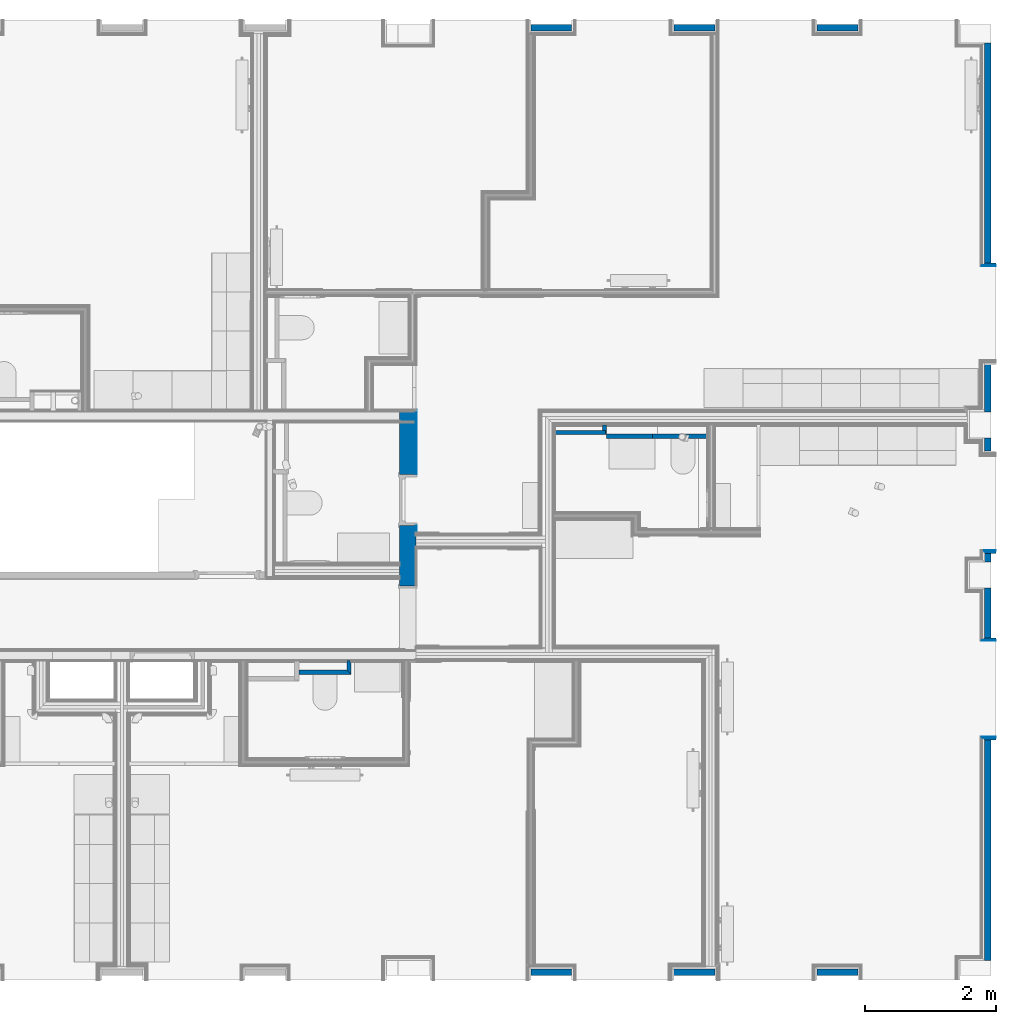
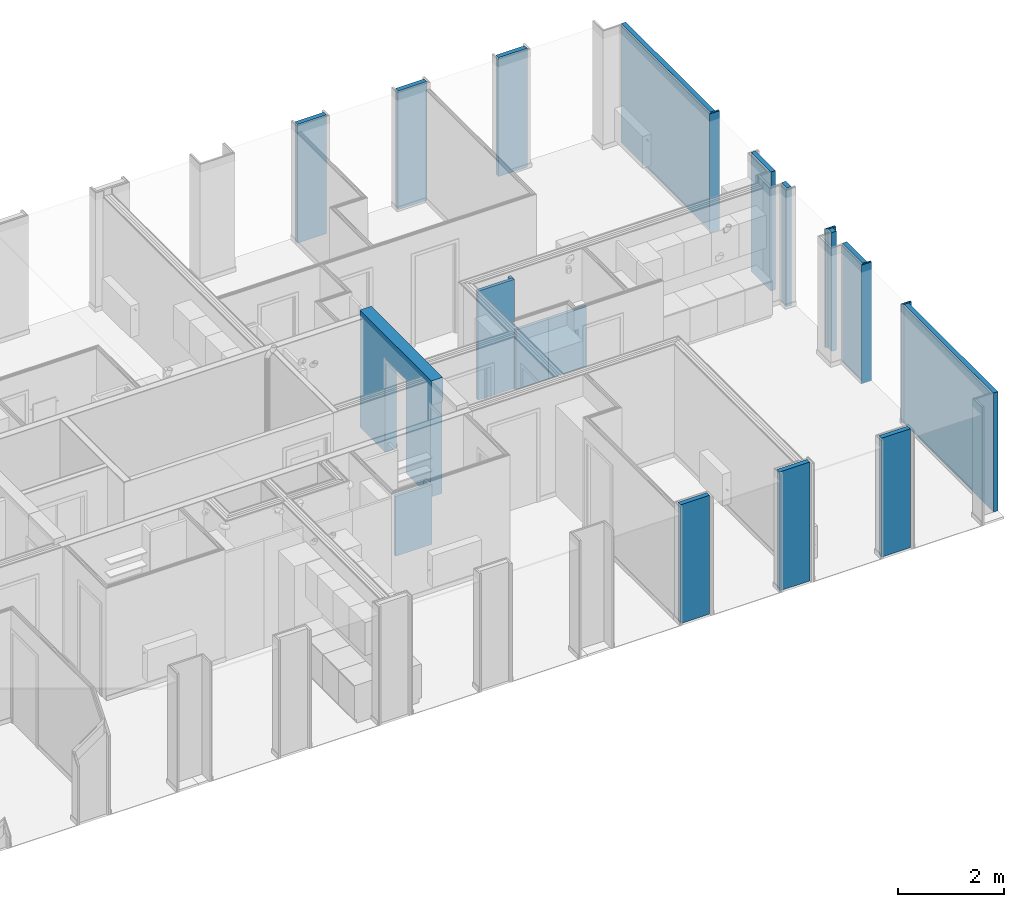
# One storey, part 5 of 82: 28 walls, 3 openings.
"""IFC2X3 building model written with IfcOpenShell, lengths in metres."""

from ifc_helpers import new_model, entity, si_unit, converted_unit, derived_unit, money_unit, direction, frame, frame_2d, origin_with_axes, place, context, subcontext, project, spatial, polyline, rectangle, outline, extrude, material, layer, layer_set, layer_usage, type_object, element, save


model = new_model("IFC2X3")

# Units and contexts
model_context = context("Model", 3, precision=1e-05, world=origin_with_axes(), true_north=direction((0.0, 1.0)))
body_context = subcontext(model_context, "Body", "Model", "MODEL_VIEW", scale=1.0)
ifc_project = project(units=[si_unit("LENGTHUNIT", "METRE"), si_unit("AREAUNIT", "SQUARE_METRE"), si_unit("VOLUMEUNIT", "CUBIC_METRE"), si_unit("ABSORBEDDOSEUNIT", "GRAY"), si_unit("AMOUNTOFSUBSTANCEUNIT", "MOLE"), si_unit("DOSEEQUIVALENTUNIT", "SIEVERT"), si_unit("ELECTRICCAPACITANCEUNIT", "FARAD"), si_unit("ELECTRICCHARGEUNIT", "COULOMB"), si_unit("ELECTRICCONDUCTANCEUNIT", "SIEMENS"), si_unit("ELECTRICCURRENTUNIT", "AMPERE"), si_unit("ELECTRICRESISTANCEUNIT", "OHM"), si_unit("ELECTRICVOLTAGEUNIT", "VOLT"), si_unit("ENERGYUNIT", "JOULE"), si_unit("FORCEUNIT", "NEWTON"), si_unit("FREQUENCYUNIT", "HERTZ"), si_unit("ILLUMINANCEUNIT", "LUX"), si_unit("INDUCTANCEUNIT", "HENRY"), si_unit("LUMINOUSFLUXUNIT", "LUMEN"), si_unit("LUMINOUSINTENSITYUNIT", "CANDELA"), si_unit("MAGNETICFLUXDENSITYUNIT", "TESLA"), si_unit("MAGNETICFLUXUNIT", "WEBER"), si_unit("MASSUNIT", "GRAM"), converted_unit("PLANEANGLEUNIT", "degree", entity("IfcReal", 0.0174532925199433), si_unit("PLANEANGLEUNIT", "RADIAN"), dimensions=[0, 0, 0, 0, 0, 0, 0]), si_unit("POWERUNIT", "WATT"), si_unit("PRESSUREUNIT", "PASCAL"), si_unit("RADIOACTIVITYUNIT", "BECQUEREL"), si_unit("SOLIDANGLEUNIT", "STERADIAN"), si_unit("THERMODYNAMICTEMPERATUREUNIT", "KELVIN"), si_unit("TIMEUNIT", "SECOND"), derived_unit("ACCELERATIONUNIT", [(si_unit("LENGTHUNIT", "METRE"), 1), (si_unit("TIMEUNIT", "SECOND"), -2)]), derived_unit("ANGULARVELOCITYUNIT", [(converted_unit("PLANEANGLEUNIT", "degree", entity("IfcReal", 0.0174532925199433), si_unit("PLANEANGLEUNIT", "RADIAN"), dimensions=[0, 0, 0, 0, 0, 0, 0]), 1), (si_unit("TIMEUNIT", "SECOND"), -1)]), derived_unit("CURVATUREUNIT", [(converted_unit("PLANEANGLEUNIT", "degree", entity("IfcReal", 0.0174532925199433), si_unit("PLANEANGLEUNIT", "RADIAN"), dimensions=[0, 0, 0, 0, 0, 0, 0]), 1), (si_unit("LENGTHUNIT", "METRE"), -1)]), derived_unit("DYNAMICVISCOSITYUNIT", [(si_unit("PRESSUREUNIT", "PASCAL"), 1), (si_unit("TIMEUNIT", "SECOND"), 1)]), derived_unit("HEATFLUXDENSITYUNIT", [(si_unit("POWERUNIT", "WATT"), 1), (si_unit("LENGTHUNIT", "METRE"), -2)]), derived_unit("HEATINGVALUEUNIT", [(si_unit("ENERGYUNIT", "JOULE"), 1), (si_unit("MASSUNIT", "GRAM"), -1)]), derived_unit("INTEGERCOUNTRATEUNIT", [(si_unit("TIMEUNIT", "SECOND"), -1)]), derived_unit("IONCONCENTRATIONUNIT", [(si_unit("MASSUNIT", "GRAM"), 1), (si_unit("VOLUMEUNIT", "CUBIC_METRE"), -1)]), derived_unit("ISOTHERMALMOISTURECAPACITYUNIT", [(si_unit("VOLUMEUNIT", "CUBIC_METRE"), 1), (si_unit("MASSUNIT", "GRAM"), -1)]), derived_unit("KINEMATICVISCOSITYUNIT", [(si_unit("AREAUNIT", "SQUARE_METRE"), 1), (si_unit("TIMEUNIT", "SECOND"), -1)]), derived_unit("LINEARFORCEUNIT", [(si_unit("FORCEUNIT", "NEWTON"), 1), (si_unit("LENGTHUNIT", "METRE"), -1)]), derived_unit("LINEARMOMENTUNIT", [(si_unit("FORCEUNIT", "NEWTON"), 1), (si_unit("LENGTHUNIT", "METRE"), -1)]), derived_unit("LINEARSTIFFNESSUNIT", [(si_unit("FORCEUNIT", "NEWTON"), 1), (si_unit("LENGTHUNIT", "METRE"), -1)]), derived_unit("LINEARVELOCITYUNIT", [(si_unit("LENGTHUNIT", "METRE"), 1), (si_unit("TIMEUNIT", "SECOND"), -1)]), derived_unit("LUMINOUSINTENSITYDISTRIBUTIONUNIT", [(si_unit("LUMINOUSINTENSITYUNIT", "CANDELA"), 1), (si_unit("LUMINOUSFLUXUNIT", "LUMEN"), -1)]), derived_unit("MASSDENSITYUNIT", [(si_unit("MASSUNIT", "GRAM"), 1), (si_unit("VOLUMEUNIT", "CUBIC_METRE"), -1)]), derived_unit("MASSFLOWRATEUNIT", [(si_unit("MASSUNIT", "GRAM"), 1), (si_unit("TIMEUNIT", "SECOND"), -1)]), derived_unit("MASSPERLENGTHUNIT", [(si_unit("MASSUNIT", "GRAM"), 1), (si_unit("LENGTHUNIT", "METRE"), -1)]), derived_unit("MODULUSOFELASTICITYUNIT", [(si_unit("FORCEUNIT", "NEWTON"), 1), (si_unit("AREAUNIT", "SQUARE_METRE"), -1)]), derived_unit("MODULUSOFLINEARSUBGRADEREACTIONUNIT", [(si_unit("FORCEUNIT", "NEWTON"), 1), (si_unit("LENGTHUNIT", "METRE"), -2)]), derived_unit("MODULUSOFROTATIONALSUBGRADEREACTIONUNIT", [(si_unit("FORCEUNIT", "NEWTON"), 1), (si_unit("LENGTHUNIT", "METRE"), 1)]), derived_unit("MODULUSOFSUBGRADEREACTIONUNIT", [(si_unit("FORCEUNIT", "NEWTON"), 1), (si_unit("VOLUMEUNIT", "CUBIC_METRE"), -1)]), derived_unit("MOISTUREDIFFUSIVITYUNIT", [(si_unit("VOLUMEUNIT", "CUBIC_METRE"), 1), (si_unit("TIMEUNIT", "SECOND"), -1)]), derived_unit("MOLECULARWEIGHTUNIT", [(si_unit("MASSUNIT", "GRAM"), 1), (si_unit("AMOUNTOFSUBSTANCEUNIT", "MOLE"), -1)]), derived_unit("PLANARFORCEUNIT", [(si_unit("FORCEUNIT", "NEWTON"), 1), (si_unit("LENGTHUNIT", "METRE"), -2)]), derived_unit("ROTATIONALFREQUENCYUNIT", [(si_unit("TIMEUNIT", "SECOND"), -1)]), derived_unit("ROTATIONALMASSUNIT", [(si_unit("MASSUNIT", "GRAM"), 1), (si_unit("LENGTHUNIT", "METRE"), 2)]), derived_unit("ROTATIONALSTIFFNESSUNIT", [(si_unit("FORCEUNIT", "NEWTON"), 1), (si_unit("LENGTHUNIT", "METRE"), 1), (converted_unit("PLANEANGLEUNIT", "degree", entity("IfcReal", 0.0174532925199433), si_unit("PLANEANGLEUNIT", "RADIAN"), dimensions=[0, 0, 0, 0, 0, 0, 0]), -1)]), derived_unit("SECTIONAREAINTEGRALUNIT", [(si_unit("LENGTHUNIT", "METRE"), 5)]), derived_unit("SECTIONMODULUSUNIT", [(si_unit("LENGTHUNIT", "METRE"), 3)]), derived_unit("SHEARMODULUSUNIT", [(si_unit("FORCEUNIT", "NEWTON"), 1), (si_unit("AREAUNIT", "SQUARE_METRE"), -1)]), derived_unit("SOUNDPOWERUNIT", [(si_unit("ENERGYUNIT", "JOULE"), 1), (si_unit("TIMEUNIT", "SECOND"), -1)]), derived_unit("SPECIFICHEATCAPACITYUNIT", [(si_unit("FORCEUNIT", "NEWTON"), 1), (si_unit("MASSUNIT", "GRAM"), -1), (si_unit("THERMODYNAMICTEMPERATUREUNIT", "KELVIN"), -1)]), derived_unit("TEMPERATUREGRADIENTUNIT", [(si_unit("THERMODYNAMICTEMPERATUREUNIT", "KELVIN"), 1), (si_unit("LENGTHUNIT", "METRE"), -1)]), derived_unit("THERMALADMITTANCEUNIT", [(si_unit("POWERUNIT", "WATT"), 1), (si_unit("AREAUNIT", "SQUARE_METRE"), -1), (si_unit("THERMODYNAMICTEMPERATUREUNIT", "KELVIN"), -1)]), derived_unit("THERMALCONDUCTANCEUNIT", [(si_unit("POWERUNIT", "WATT"), 1), (si_unit("LENGTHUNIT", "METRE"), -1), (si_unit("THERMODYNAMICTEMPERATUREUNIT", "KELVIN"), -1)]), derived_unit("THERMALEXPANSIONCOEFFICIENTUNIT", [(si_unit("THERMODYNAMICTEMPERATUREUNIT", "KELVIN"), -1)]), derived_unit("THERMALRESISTANCEUNIT", [(si_unit("AREAUNIT", "SQUARE_METRE"), 1), (si_unit("POWERUNIT", "WATT"), -1)]), derived_unit("THERMALTRANSMITTANCEUNIT", [(si_unit("POWERUNIT", "WATT"), 1), (si_unit("AREAUNIT", "SQUARE_METRE"), -1), (si_unit("THERMODYNAMICTEMPERATUREUNIT", "KELVIN"), -1)]), derived_unit("TORQUEUNIT", [(si_unit("FORCEUNIT", "NEWTON"), 1), (si_unit("LENGTHUNIT", "METRE"), 1)]), derived_unit("VAPORPERMEABILITYUNIT", [(si_unit("MASSUNIT", "GRAM"), 1), (si_unit("TIMEUNIT", "SECOND"), -1)]), derived_unit("VOLUMETRICFLOWRATEUNIT", [(si_unit("VOLUMEUNIT", "CUBIC_METRE"), 1), (si_unit("TIMEUNIT", "SECOND"), -1)]), derived_unit("WARPINGCONSTANTUNIT", [(si_unit("LENGTHUNIT", "METRE"), 6)]), derived_unit("WARPINGMOMENTUNIT", [(si_unit("FORCEUNIT", "NEWTON"), 1), (si_unit("LENGTHUNIT", "METRE"), 2)]), money_unit("GBP")], contexts=[model_context])

# Site, building, storey
site_placement = place(None, origin_with_axes())
site = spatial("IfcSite", under=ifc_project, at=site_placement, Name="Site", CompositionType="ELEMENT")
building_placement = place(site_placement, origin_with_axes())
building = spatial("IfcBuilding", under=site, at=building_placement, Name="Building01", CompositionType="ELEMENT")
storey_placement = place(building_placement, frame((0.0, 0.0, 12.13), z_axis=(0.0, 0.0, 1.0), x_axis=(1.0, 0.0, 0.0)))
storey = spatial("IfcBuildingStorey", under=building, at=storey_placement, Name="3F", CompositionType="ELEMENT", Elevation=12.13)

# Walls
ifc_material_1 = material(Name="A_BSUK_WallsExternal_Block")
ifc_layer_1 = layer(ifc_material_1, 0.1, ventilated=False)
ifc_layer_set_1 = layer_set([ifc_layer_1])
ifc_layer_usage_1 = layer_usage(ifc_layer_set_1, "AXIS2", "POSITIVE", 0.0)
wall_type_1 = type_object("IfcWallType", Name="A-Walls-ExternalBlock", PredefinedType="NOTDEFINED")
wall_1_placement = place(storey_placement, frame((20.387, 0.27, 0.0), z_axis=(0.0, 0.0, 1.0), x_axis=(-1.0, 0.0, 0.0)))
element("IfcWallStandardCase", 1, at=wall_1_placement, inside=storey, type_object=wall_type_1, material=ifc_layer_usage_1, Name="A-Walls-ExternalBlock", ObjectType="A-Walls-ExternalBlock", context=body_context, shape_type="SweptSolid", body=[
    extrude(rectangle(XDim=0.624, YDim=0.1, at=frame_2d((0.312, 0.05), x_axis=(-1.0, 0.0))), origin_with_axes(), (0.0, 0.0, 1.0), 2.74),
])
wall_2_placement = place(storey_placement, frame((22.577, 0.27, 0.0), z_axis=(0.0, 0.0, 1.0), x_axis=(-1.0, 0.0, 0.0)))
element("IfcWallStandardCase", 2, at=wall_2_placement, inside=storey, type_object=wall_type_1, material=ifc_layer_usage_1, Name="A-Walls-ExternalBlock", ObjectType="A-Walls-ExternalBlock", context=body_context, shape_type="SweptSolid", body=[
    extrude(rectangle(XDim=0.66, YDim=0.1, at=frame_2d((0.33, 0.05), x_axis=(-1.0, 0.0))), origin_with_axes(), (0.0, 0.0, 1.0), 2.74),
])
wall_3_placement = place(storey_placement, frame((24.767, 0.27, 0.0), z_axis=(0.0, 0.0, 1.0), x_axis=(-1.0, 0.0, 0.0)))
element("IfcWallStandardCase", 3, at=wall_3_placement, inside=storey, type_object=wall_type_1, material=ifc_layer_usage_1, Name="A-Walls-ExternalBlock", ObjectType="A-Walls-ExternalBlock", context=body_context, shape_type="SweptSolid", body=[
    extrude(rectangle(XDim=0.624, YDim=0.1, at=frame_2d((0.312, 0.05), x_axis=(-1.0, 0.0))), origin_with_axes(), (0.0, 0.0, 1.0), 2.74),
])
for number, where, z_axis, x_axis, name in (
    (4, (19.763, 14.63, 0.0), (0.0, 0.0, 1.0), (1.0, 0.0, 0.0), "A-Walls-ExternalBlock"),
    (5, (21.953, 14.63, 0.0), (0.0, 0.0, 1.0), (1.0, 0.0, 0.0), "A-Walls-ExternalBlock"),
    (6, (24.143, 14.63, 0.0), (0.0, 0.0, 1.0), (1.0, 0.0, 0.0), "A-Walls-ExternalBlock"),
):
    element("IfcWallStandardCase", number, at=place(storey_placement, frame(where, z_axis=z_axis, x_axis=x_axis)), inside=storey, type_object=wall_type_1, material=ifc_layer_usage_1, Name=name, ObjectType="A-Walls-ExternalBlock", context=body_context, shape_type="SweptSolid", body=[
        extrude(rectangle(XDim=0.624, YDim=0.1, at=frame_2d((0.312, 0.05), x_axis=(1.0, 0.0))), origin_with_axes(), (0.0, 0.0, 1.0), 2.74),
    ])
wall_4_placement = place(storey_placement, frame((26.71, 3.77418, 0.0), z_axis=(0.0, 0.0, 1.0), x_axis=(0.0, -1.0, 0.0)))
element("IfcWallStandardCase", 7, at=wall_4_placement, inside=storey, type_object=wall_type_1, material=ifc_layer_usage_1, Name="A-Walls-ExternalBlock", ObjectType="A-Walls-ExternalBlock", context=body_context, shape_type="SweptSolid", body=[
    extrude(rectangle(XDim=3.37418, YDim=0.1, at=frame_2d((1.68709, 0.05), x_axis=(1.0, 0.0))), origin_with_axes(), (0.0, 0.0, 1.0), 2.74),
])
wall_5_placement = place(storey_placement, frame((26.71, 6.634326, 0.0), z_axis=(0.0, 0.0, 1.0), x_axis=(0.0, -1.0, 0.0)))
element("IfcWallStandardCase", 8, at=wall_5_placement, inside=storey, type_object=wall_type_1, material=ifc_layer_usage_1, Name="A-Walls-ExternalBlock", ObjectType="A-Walls-ExternalBlock", context=body_context, shape_type="SweptSolid", body=[
    extrude(rectangle(XDim=0.134326, YDim=0.1, at=frame_2d((0.067163, 0.05), x_axis=(1.0, 0.0))), origin_with_axes(), (0.0, 0.0, 1.0), 2.74),
])
wall_6_placement = place(storey_placement, frame((26.71, 9.55018, 0.0), z_axis=(0.0, 0.0, 1.0), x_axis=(0.0, -1.0, 0.0)))
element("IfcWallStandardCase", 9, at=wall_6_placement, inside=storey, type_object=wall_type_1, material=ifc_layer_usage_1, Name="A-Walls-ExternalBlock", ObjectType="A-Walls-ExternalBlock", context=body_context, shape_type="SweptSolid", body=[
    extrude(rectangle(XDim=0.1, YDim=0.75018, at=frame_2d((0.37509, 0.05), x_axis=(0.0, -1.0))), origin_with_axes(), (0.0, 0.0, 1.0), 2.74),
])
wall_7_placement = place(storey_placement, frame((26.71, 8.4, 0.0), z_axis=(0.0, 0.0, 1.0), x_axis=(0.0, -1.0, 0.0)))
element("IfcWallStandardCase", 10, at=wall_7_placement, inside=storey, type_object=wall_type_1, material=ifc_layer_usage_1, Name="A-Walls-ExternalBlock", ObjectType="A-Walls-ExternalBlock", context=body_context, shape_type="SweptSolid", body=[
    extrude(rectangle(XDim=0.199674, YDim=0.1, at=frame_2d((0.099837, 0.05), x_axis=(-1.0, 0.0))), origin_with_axes(), (0.0, 0.0, 1.0), 2.74),
])
wall_8_placement = place(storey_placement, frame((26.71, 14.45, 0.0), z_axis=(0.0, 0.0, 1.0), x_axis=(0.0, -1.0, 0.0)))
element("IfcWallStandardCase", 11, at=wall_8_placement, inside=storey, type_object=wall_type_1, material=ifc_layer_usage_1, Name="A-Walls-ExternalBlock", ObjectType="A-Walls-ExternalBlock", context=body_context, shape_type="SweptSolid", body=[
    extrude(rectangle(XDim=3.36982, YDim=0.1, at=frame_2d((1.68491, 0.05), x_axis=(1.0, 0.0))), origin_with_axes(), (0.0, 0.0, 1.0), 2.74),
])
wall_9_placement = place(storey_placement, frame((26.71, 6.1, 0.0), z_axis=(0.0, 0.0, 1.0), x_axis=(0.0, -1.0, 0.0)))
element("IfcWallStandardCase", 12, at=wall_9_placement, inside=storey, type_object=wall_type_1, material=ifc_layer_usage_1, Name="A-Walls-ExternalBlock", ObjectType="A-Walls-ExternalBlock", context=body_context, shape_type="SweptSolid", body=[
    extrude(rectangle(XDim=0.75982, YDim=0.1, at=frame_2d((0.37991, 0.05), x_axis=(1.0, 0.0))), origin_with_axes(), (0.0, 0.0, 1.0), 2.74),
])
ifc_material_2 = material(Name="A_BSUK_Walls_Timber")
ifc_layer_2 = layer(ifc_material_2, 0.015, ventilated=False)
ifc_material_3 = material(Name="A_BSUK_OpeningsClearance")
ifc_layer_3 = layer(ifc_material_3, 0.05, ventilated=False)
ifc_layer_set_2 = layer_set([ifc_layer_2, ifc_layer_3])
ifc_layer_usage_2 = layer_usage(ifc_layer_set_2, "AXIS2", "POSITIVE", 0.0)
wall_type_2 = type_object("IfcWallType", Name="SHE_A-Walls_Type05c_PreWallShell_65mm", PredefinedType="NOTDEFINED")
wall_10_placement = place(storey_placement, frame((16.9425, 4.845, 0.0), z_axis=(0.0, 0.0, 1.0), x_axis=(0.0, 1.0, 0.0)))
element("IfcWallStandardCase", 13, at=wall_10_placement, inside=storey, type_object=wall_type_2, material=ifc_layer_usage_2, Name="5C", ObjectType="SHE_A-Walls_Type05c_PreWallShell_65mm", context=body_context, shape_type="SweptSolid", body=[
    extrude(outline(polyline([(0.12, -0.05), (0.15, -0.05), (0.15, 0.0), (0.0, 0.0), (-0.065, -0.065), (0.12, -0.065), (0.12, -0.05)])), origin_with_axes(), (0.0, 0.0, 1.0), 1.375),
])
wall_11_placement = place(storey_placement, frame((16.2075, 4.845, 0.0), z_axis=(0.0, 0.0, 1.0), x_axis=(1.0, 0.0, 0.0)))
element("IfcWallStandardCase", 14, at=wall_11_placement, inside=storey, type_object=wall_type_2, material=ifc_layer_usage_2, Name="5C", ObjectType="SHE_A-Walls_Type05c_PreWallShell_65mm", context=body_context, shape_type="SweptSolid", body=[
    extrude(outline(polyline([(0.735, 0.0), (0.0, 0.0), (0.0, -0.065), (0.8, -0.065), (0.735, 0.0)])), origin_with_axes(), (0.0, 0.0, 1.0), 1.375),
])
ifc_layer_set_3 = layer_set([ifc_layer_3, ifc_layer_2])
ifc_layer_usage_3 = layer_usage(ifc_layer_set_3, "AXIS2", "POSITIVE", 0.0)
wall_12_placement = place(storey_placement, frame((20.907661, 8.515, 0.0), z_axis=(0.0, 0.0, 1.0), x_axis=(-1.0, 0.0, 0.0)))
element("IfcWallStandardCase", 15, at=wall_12_placement, inside=storey, type_object=wall_type_2, material=ifc_layer_usage_3, Name="5C", ObjectType="SHE_A-Walls_Type05c_PreWallShell_65mm", context=body_context, shape_type="SweptSolid", body=[
    extrude(outline(polyline([(0.785, 0.065), (-0.015, 0.065), (-0.015, 0.05), (0.0, 0.05), (0.0, 0.0), (0.785, 0.0), (0.785, 0.065)])), origin_with_axes(), (0.0, 0.0, 1.0), 2.51),
])
wall_13_placement = place(storey_placement, frame((20.857661, 8.595, 0.0), z_axis=(0.0, 0.0, 1.0), x_axis=(0.0, -1.0, 0.0)))
element("IfcWallStandardCase", 16, at=wall_13_placement, inside=storey, type_object=wall_type_2, material=ifc_layer_usage_3, Name="5C", ObjectType="SHE_A-Walls_Type05c_PreWallShell_65mm", context=body_context, shape_type="SweptSolid", body=[
    extrude(outline(polyline([(0.08, 0.05), (0.13, 0.05), (0.13, 0.065), (0.0, 0.065), (0.0, 0.0), (0.08, 0.0), (0.08, 0.05)])), origin_with_axes(), (0.0, 0.0, 1.0), 2.51),
])
wall_14_placement = place(storey_placement, frame((21.626659, 8.460003, 0.0), z_axis=(0.0, 0.0, 1.0), x_axis=(-1.0, 0.0, 0.0)))
element("IfcWallStandardCase", 17, at=wall_14_placement, inside=storey, type_object=wall_type_2, material=ifc_layer_usage_3, Name="5C", ObjectType="SHE_A-Walls_Type05c_PreWallShell_65mm", context=body_context, shape_type="SweptSolid", body=[
    extrude(rectangle(XDim=0.703998, YDim=0.065, at=frame_2d((0.351999, 0.0325), x_axis=(-1.0, 0.0))), origin_with_axes(), (0.0, 0.0, 1.0), 1.375),
])
wall_15_placement = place(storey_placement, frame((22.461661, 8.46, 0.0), z_axis=(0.0, 0.0, 1.0), x_axis=(-1.0, 0.0, 0.0)))
element("IfcWallStandardCase", 18, at=wall_15_placement, inside=storey, type_object=wall_type_2, material=ifc_layer_usage_3, Name="5C", ObjectType="SHE_A-Walls_Type05c_PreWallShell_65mm", context=body_context, shape_type="SweptSolid", body=[
    extrude(rectangle(XDim=0.835002, YDim=0.065, at=frame_2d((0.417501, 0.0325), x_axis=(1.0, 0.0))), origin_with_axes(), (0.0, 0.0, 1.0), 1.375),
])
ifc_material_4 = material(Name="A_BSUK_WallInternal_Finishes_Plasterboard")
ifc_layer_4 = layer(ifc_material_4, 0.013, ventilated=False)
ifc_layer_set_4 = layer_set([ifc_layer_4])
ifc_layer_usage_4 = layer_usage(ifc_layer_set_4, "AXIS2", "POSITIVE", 0.0)
wall_type_3 = type_object("IfcWallType", Name="default", PredefinedType="NOTDEFINED")
wall_16_placement = place(storey_placement, frame((26.675, 3.80918, 0.0), z_axis=(0.0, 0.0, 1.0), x_axis=(1.0, 0.0, 0.0)))
element("IfcWallStandardCase", 19, at=wall_16_placement, inside=storey, type_object=wall_type_3, material=ifc_layer_usage_4, Name="default", ObjectType="default", context=body_context, shape_type="SweptSolid", body=[
    extrude(outline(polyline([(-0.013, 0.013), (0.0, 0.0), (0.205, 0.0), (0.205, 0.013), (-0.013, 0.013)])), origin_with_axes(), (0.0, 0.0, 1.0), 2.74),
])
ifc_material_5 = material(Name="A_BSUK_Insulation")
ifc_layer_5 = layer(ifc_material_5, 0.036, ventilated=False)
ifc_layer_set_5 = layer_set([ifc_layer_5])
ifc_layer_usage_5 = layer_usage(ifc_layer_set_5, "AXIS2", "POSITIVE", 0.0)
wall_17_placement = place(storey_placement, frame((26.71, 3.77418, 0.0), z_axis=(0.0, 0.0, 1.0), x_axis=(1.0, 0.0, 0.0)))
element("IfcWallStandardCase", 20, at=wall_17_placement, inside=storey, type_object=wall_type_3, material=ifc_layer_usage_5, Name="default", ObjectType="default", context=body_context, shape_type="SweptSolid", body=[
    extrude(outline(polyline([(-0.036, 0.036), (0.0, 0.0), (0.17, 0.0), (0.17, 0.036), (-0.036, 0.036)])), origin_with_axes(), (0.0, 0.0, 1.0), 2.74),
])
wall_18_placement = place(storey_placement, frame((26.88, 5.30518, 0.0), z_axis=(0.0, 0.0, 1.0), x_axis=(-1.0, 0.0, 0.0)))
element("IfcWallStandardCase", 21, at=wall_18_placement, inside=storey, type_object=wall_type_3, material=ifc_layer_usage_4, Name="default", ObjectType="default", context=body_context, shape_type="SweptSolid", body=[
    extrude(outline(polyline([(0.218, 0.013), (0.0, 0.013), (0.0, 0.0), (0.205, 0.0), (0.218, 0.013)])), origin_with_axes(), (0.0, 0.0, 1.0), 2.74),
])
wall_19_placement = place(storey_placement, frame((26.88, 5.34018, 0.0), z_axis=(0.0, 0.0, 1.0), x_axis=(-1.0, 0.0, 0.0)))
element("IfcWallStandardCase", 22, at=wall_19_placement, inside=storey, type_object=wall_type_3, material=ifc_layer_usage_5, Name="default", ObjectType="default", context=body_context, shape_type="SweptSolid", body=[
    extrude(outline(polyline([(0.206, 0.036), (0.0, 0.036), (0.0, 0.0), (0.17, 0.0), (0.206, 0.036)])), origin_with_axes(), (0.0, 0.0, 1.0), 2.74),
])
wall_20_placement = place(storey_placement, frame((26.675, 6.669326, 0.0), z_axis=(0.0, 0.0, 1.0), x_axis=(1.0, 0.0, 0.0)))
element("IfcWallStandardCase", 23, at=wall_20_placement, inside=storey, type_object=wall_type_3, material=ifc_layer_usage_4, Name="default", ObjectType="default", context=body_context, shape_type="SweptSolid", body=[
    extrude(outline(polyline([(-0.013, 0.013), (0.0, 0.0), (0.205, 0.0), (0.205, 0.013), (-0.013, 0.013)])), origin_with_axes(), (0.0, 0.0, 1.0), 2.74),
])
wall_21_placement = place(storey_placement, frame((26.71, 6.634326, 0.0), z_axis=(0.0, 0.0, 1.0), x_axis=(1.0, 0.0, 0.0)))
element("IfcWallStandardCase", 24, at=wall_21_placement, inside=storey, type_object=wall_type_3, material=ifc_layer_usage_5, Name="default", ObjectType="default", context=body_context, shape_type="SweptSolid", body=[
    extrude(outline(polyline([(-0.036, 0.036), (0.0, 0.0), (0.17, 0.0), (0.17, 0.036), (-0.036, 0.036)])), origin_with_axes(), (0.0, 0.0, 1.0), 2.74),
])
wall_22_placement = place(storey_placement, frame((26.88, 11.04518, 0.0), z_axis=(0.0, 0.0, 1.0), x_axis=(-1.0, 0.0, 0.0)))
element("IfcWallStandardCase", 25, at=wall_22_placement, inside=storey, type_object=wall_type_3, material=ifc_layer_usage_4, Name="default", ObjectType="default", context=body_context, shape_type="SweptSolid", body=[
    extrude(outline(polyline([(0.218, 0.013), (0.0, 0.013), (0.0, 0.0), (0.205, 0.0), (0.218, 0.013)])), origin_with_axes(), (0.0, 0.0, 1.0), 2.74),
])
wall_23_placement = place(storey_placement, frame((26.88, 11.08018, 0.0), z_axis=(0.0, 0.0, 1.0), x_axis=(-1.0, 0.0, 0.0)))
element("IfcWallStandardCase", 26, at=wall_23_placement, inside=storey, type_object=wall_type_3, material=ifc_layer_usage_5, Name="default", ObjectType="default", context=body_context, shape_type="SweptSolid", body=[
    extrude(outline(polyline([(0.206, 0.036), (0.0, 0.036), (0.0, 0.0), (0.17, 0.0), (0.206, 0.036)])), origin_with_axes(), (0.0, 0.0, 1.0), 2.74),
])

# Wall, opening
ifc_layer_set_6 = layer_set([ifc_layer_2])
ifc_layer_usage_6 = layer_usage(ifc_layer_set_6, "AXIS2", "POSITIVE", 0.0)
wall_24_placement = place(storey_placement, frame((18.0, 8.835, 0.015), z_axis=(0.0, 0.0, 1.0), x_axis=(0.0, -1.0, 0.0)))
wall_24 = element("IfcWallStandardCase", 27, at=wall_24_placement, inside=storey, type_object=wall_type_3, material=ifc_layer_usage_6, Name="default", ObjectType="default", context=body_context, shape_type="SweptSolid", body=[
    extrude(rectangle(XDim=1.89, YDim=0.015, at=frame_2d((0.945, 0.0075), x_axis=(-1.0, 0.0))), origin_with_axes(), (0.0, 0.0, 1.0), 0.1),
])
opening_1_placement = place(wall_24_placement, frame((0.993, 0.0, -0.015), z_axis=(0.0, 0.0, 1.0), x_axis=(1.0, 0.0, 0.0)))
element("IfcOpeningElement", 28, at=opening_1_placement, cuts=wall_24, Name="Opening", ObjectType="Opening", context=body_context, shape_type="SweptSolid", body=[
    extrude(rectangle(XDim=2.142, YDim=0.784, at=frame_2d((-0.392, 1.071), x_axis=(0.0, -1.0))), frame((0.0, 0.0, 0.0), z_axis=(0.0, 1.0, 0.0), x_axis=(-1.0, 0.0, 0.0)), (0.0, 0.0, 1.0), 0.015),
])

# Wall, openings
ifc_material_6 = material(Name="A_BSUK_Walls_Concrete")
ifc_layer_6 = layer(ifc_material_6, 0.25, ventilated=False)
ifc_layer_set_7 = layer_set([ifc_layer_6])
ifc_layer_usage_7 = layer_usage(ifc_layer_set_7, "AXIS2", "POSITIVE", 0.0)
wall_type_4 = type_object("IfcWallType", Name="A-Walls-Concrete", PredefinedType="NOTDEFINED")
wall_25_placement = place(storey_placement, frame((17.875, 6.1, 0.0), z_axis=(0.0, 0.0, 1.0), x_axis=(0.0, 1.0, 0.0)))
wall_25 = element("IfcWallStandardCase", 29, at=wall_25_placement, inside=storey, type_object=wall_type_4, material=ifc_layer_usage_7, Name="A-Walls-Concrete", ObjectType="A-Walls-Concrete", context=body_context, shape_type="SweptSolid", body=[
    extrude(rectangle(XDim=2.7, YDim=0.25, at=frame_2d((1.35, 0.0), x_axis=(1.0, 0.0))), origin_with_axes(), (0.0, 0.0, 1.0), 2.7),
])
opening_2_placement = place(wall_25_placement, frame((0.958, -0.125, 0.0), z_axis=(0.0, 0.0, 1.0), x_axis=(1.0, 0.0, 0.0)))
element("IfcOpeningElement", 30, at=opening_2_placement, cuts=wall_25, Name="Opening", ObjectType="Opening", context=body_context, shape_type="SweptSolid", body=[
    extrude(rectangle(XDim=2.142, YDim=0.784, at=frame_2d((-0.392, 1.071), x_axis=(0.0, -1.0))), frame((0.0, 0.0, 0.0), z_axis=(0.0, 1.0, 0.0), x_axis=(-1.0, 0.0, 0.0)), (0.0, 0.0, 1.0), 0.25),
])
opening_3_placement = place(wall_25_placement, frame((-0.95, -0.125, 0.0), z_axis=(0.0, 0.0, 1.0), x_axis=(1.0, 0.0, 0.0)))
element("IfcOpeningElement", 31, at=opening_3_placement, cuts=wall_25, Name="Opening", ObjectType="Opening", context=body_context, shape_type="SweptSolid", body=[
    extrude(rectangle(XDim=2.142, YDim=0.984, at=frame_2d((-0.492, 1.071), x_axis=(0.0, -1.0))), frame((0.0, 0.0, 0.0), z_axis=(0.0, 1.0, 0.0), x_axis=(-1.0, 0.0, 0.0)), (0.0, 0.0, 1.0), 0.25),
])

save(model, "model.ifc")
